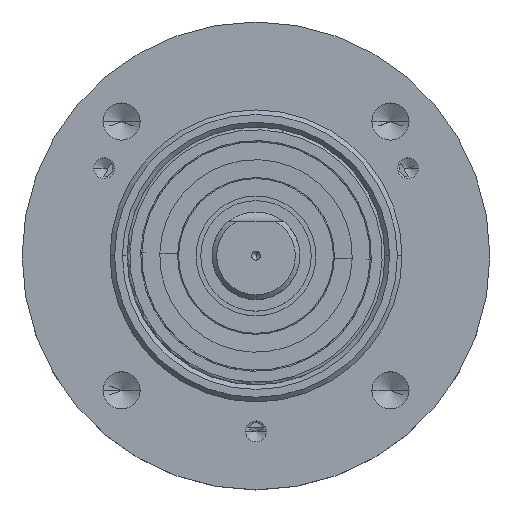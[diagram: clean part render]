
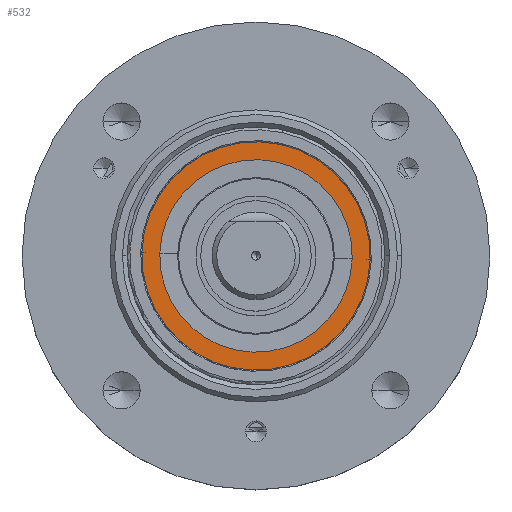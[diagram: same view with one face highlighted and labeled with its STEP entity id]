
A CAD part, top view. The second image highlights one B-rep face of the part: STEP entity #532.
In plain terms, the highlighted planar face has unit normal (0, 0, 1).
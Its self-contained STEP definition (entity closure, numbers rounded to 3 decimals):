
#224 = EDGE_CURVE ( 'NONE', #387, #1061, #3051, .T. ) ;
#387 = VERTEX_POINT ( 'NONE', #2817 ) ;
#477 = DIRECTION ( 'NONE',  ( -1., 0.03, 0. ) ) ;
#521 = CIRCLE ( 'NONE', #1770, 12.4 ) ;
#532 = ADVANCED_FACE ( 'NONE', ( #3201, #2372 ), #2500, .T. ) ;
#621 = AXIS2_PLACEMENT_3D ( 'NONE', #3099, #1819, #4487 ) ;
#724 = CARTESIAN_POINT ( 'NONE',  ( 10.445, -0.314, 5.24 ) ) ;
#832 = VERTEX_POINT ( 'NONE', #724 ) ;
#833 = CARTESIAN_POINT ( 'NONE',  ( 0., 0., 5.24 ) ) ;
#877 = DIRECTION ( 'NONE',  ( -1., 0.03, 0. ) ) ;
#1061 = VERTEX_POINT ( 'NONE', #1668 ) ;
#1392 = DIRECTION ( 'NONE',  ( 0., 0., 1. ) ) ;
#1435 = CIRCLE ( 'NONE', #2461, 10.45 ) ;
#1546 = EDGE_CURVE ( 'NONE', #832, #4146, #1435, .T. ) ;
#1662 = DIRECTION ( 'NONE',  ( 1., -0.03, 0. ) ) ;
#1668 = CARTESIAN_POINT ( 'NONE',  ( 12.394, -0.373, 5.24 ) ) ;
#1770 = AXIS2_PLACEMENT_3D ( 'NONE', #833, #3311, #877 ) ;
#1819 = DIRECTION ( 'NONE',  ( 0., 0., -1. ) ) ;
#2080 = AXIS2_PLACEMENT_3D ( 'NONE', #4555, #1392, #1662 ) ;
#2238 = ORIENTED_EDGE ( 'NONE', *, *, #224, .F. ) ;
#2253 = DIRECTION ( 'NONE',  ( 0., 0., -1. ) ) ;
#2372 = FACE_OUTER_BOUND ( 'NONE', #4066, .T. ) ;
#2454 = EDGE_CURVE ( 'NONE', #4146, #832, #3224, .T. ) ;
#2461 = AXIS2_PLACEMENT_3D ( 'NONE', #4103, #3277, #4078 ) ;
#2500 = PLANE ( 'NONE',  #2080 ) ;
#2669 = CARTESIAN_POINT ( 'NONE',  ( -10.445, 0.314, 5.24 ) ) ;
#2786 = ORIENTED_EDGE ( 'NONE', *, *, #1546, .T. ) ;
#2817 = CARTESIAN_POINT ( 'NONE',  ( -12.394, 0.373, 5.24 ) ) ;
#3002 = CARTESIAN_POINT ( 'NONE',  ( 0., 0., 5.24 ) ) ;
#3051 = CIRCLE ( 'NONE', #621, 12.4 ) ;
#3099 = CARTESIAN_POINT ( 'NONE',  ( 0., 0., 5.24 ) ) ;
#3201 = FACE_BOUND ( 'NONE', #3346, .T. ) ;
#3224 = CIRCLE ( 'NONE', #4215, 10.45 ) ;
#3277 = DIRECTION ( 'NONE',  ( 0., 0., -1. ) ) ;
#3311 = DIRECTION ( 'NONE',  ( 0., 0., -1. ) ) ;
#3346 = EDGE_LOOP ( 'NONE', ( #2786, #3936 ) ) ;
#3936 = ORIENTED_EDGE ( 'NONE', *, *, #2454, .T. ) ;
#4066 = EDGE_LOOP ( 'NONE', ( #2238, #4450 ) ) ;
#4078 = DIRECTION ( 'NONE',  ( -1., 0.03, 0. ) ) ;
#4103 = CARTESIAN_POINT ( 'NONE',  ( 0., 0., 5.24 ) ) ;
#4146 = VERTEX_POINT ( 'NONE', #2669 ) ;
#4215 = AXIS2_PLACEMENT_3D ( 'NONE', #3002, #2253, #477 ) ;
#4450 = ORIENTED_EDGE ( 'NONE', *, *, #4569, .F. ) ;
#4487 = DIRECTION ( 'NONE',  ( -1., 0.03, 0. ) ) ;
#4555 = CARTESIAN_POINT ( 'NONE',  ( 0.373, 12.394, 5.24 ) ) ;
#4569 = EDGE_CURVE ( 'NONE', #1061, #387, #521, .T. ) ;
